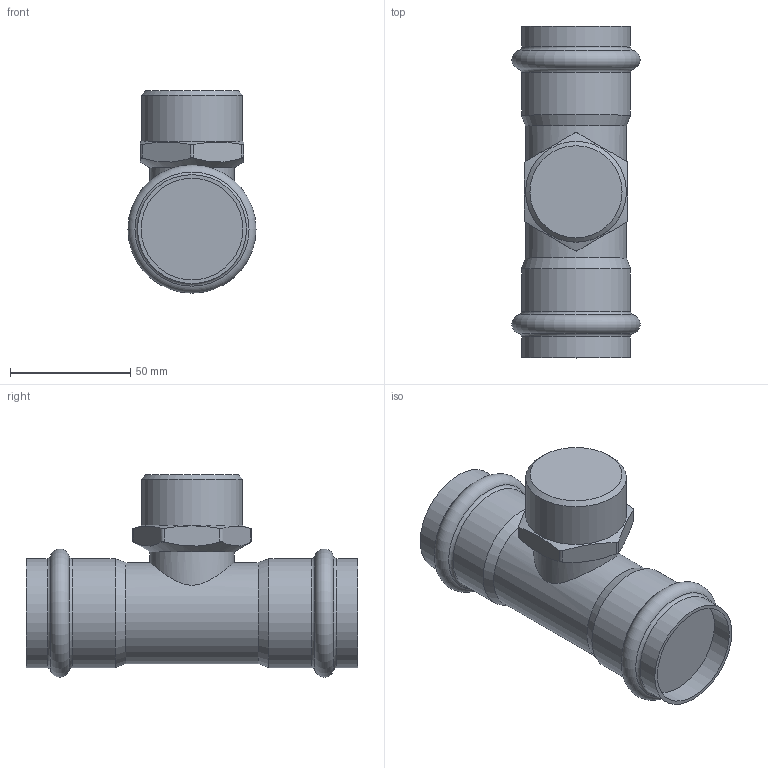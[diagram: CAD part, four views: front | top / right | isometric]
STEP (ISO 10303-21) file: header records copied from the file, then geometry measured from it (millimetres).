
FILE_DESCRIPTION(('STEP AP203'), '1');
FILE_NAME('VTi.933.I.420742', '', ('UNSPECIFIED'), ('UNSPECIFIED'), 'C3D Converter', 'C3D Toolkit', '');
FILE_SCHEMA(('CONFIG_CONTROL_DESIGN'));
Length unit declared in the file: millimetre
Bounding box: 53.29 x 138 x 84.14 mm (x, y, z)
Volume: 243885.7 mm3; surface area: 32053.3 mm2
Topology: 1 solids, 1 shells, 37 faces, 85 edges, 52 vertices
Faces by surface type: cylinder 15, plane 11, torus 6, cone 5
Full cylindrical faces by diameter (mm): 35 x1, 41.91 x1, 42 x1, 42.3 x2, 45.3 x4
Entity records: 2118 total; most frequent: CARTESIAN_POINT 1365, DIRECTION 134, ORIENTED_EDGE 128, EDGE_CURVE 64, AXIS2_PLACEMENT_3D 61, EDGE_LOOP 60, VERTEX_POINT 52, ADVANCED_FACE 37
